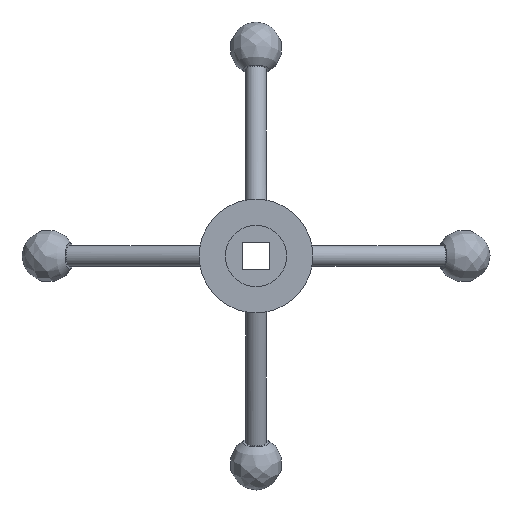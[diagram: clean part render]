
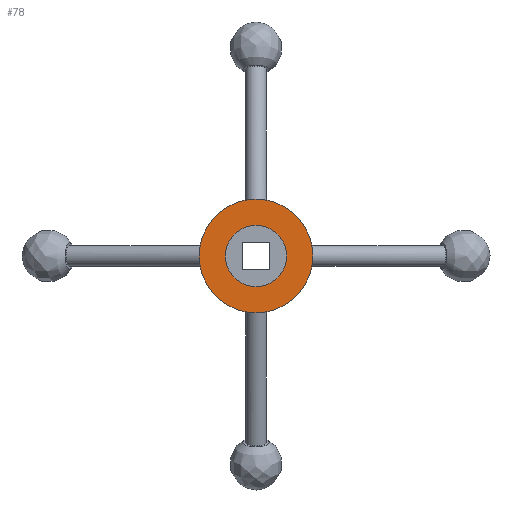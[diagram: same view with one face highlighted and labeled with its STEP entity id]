
A CAD part, front view. The second image highlights one B-rep face of the part: STEP entity #78.
In plain terms, the highlighted planar face has unit normal (0, -1, 0).
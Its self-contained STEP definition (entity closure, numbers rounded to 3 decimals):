
#78 = ADVANCED_FACE( '', ( #107, #108 ), #109, .F. );
#107 = FACE_BOUND( '', #173, .T. );
#108 = FACE_OUTER_BOUND( '', #174, .T. );
#109 = PLANE( '', #175 );
#173 = EDGE_LOOP( '', ( #384 ) );
#174 = EDGE_LOOP( '', ( #385 ) );
#175 = AXIS2_PLACEMENT_3D( '', #386, #387, #388 );
#384 = ORIENTED_EDGE( '', *, *, #489, .F. );
#385 = ORIENTED_EDGE( '', *, *, #490, .T. );
#386 = CARTESIAN_POINT( '', ( 32.5, 12., 0. ) );
#387 = DIRECTION( '', ( 0., 1., 0. ) );
#388 = DIRECTION( '', ( 0., 0., 1. ) );
#489 = EDGE_CURVE( '', #529, #529, #530, .T. );
#490 = EDGE_CURVE( '', #531, #531, #532, .T. );
#529 = VERTEX_POINT( '', #671 );
#530 = CIRCLE( '', #672, 17.5 );
#531 = VERTEX_POINT( '', #673 );
#532 = CIRCLE( '', #674, 32.5 );
#671 = CARTESIAN_POINT( '', ( 0., 12., -17.5 ) );
#672 = AXIS2_PLACEMENT_3D( '', #983, #984, #985 );
#673 = CARTESIAN_POINT( '', ( 0., 12., -32.5 ) );
#674 = AXIS2_PLACEMENT_3D( '', #986, #987, #988 );
#983 = CARTESIAN_POINT( '', ( 0., 12., 0. ) );
#984 = DIRECTION( '', ( 0., -1., 0. ) );
#985 = DIRECTION( '', ( 0., 0., -1. ) );
#986 = CARTESIAN_POINT( '', ( 0., 12., 0. ) );
#987 = DIRECTION( '', ( 0., -1., 0. ) );
#988 = DIRECTION( '', ( 0., 0., -1. ) );
